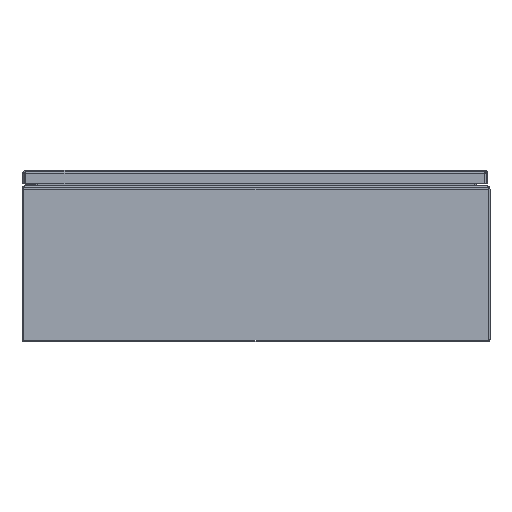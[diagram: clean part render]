
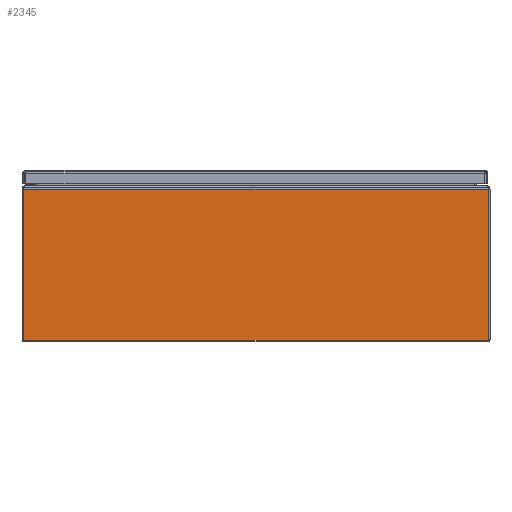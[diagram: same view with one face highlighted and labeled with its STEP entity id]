
A CAD part, front view. The second image highlights one B-rep face of the part: STEP entity #2345.
In plain terms, the highlighted planar face has unit normal (0, -1, 0).
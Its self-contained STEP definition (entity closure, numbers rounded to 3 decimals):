
#2345 = ADVANCED_FACE ( 'NONE', ( #60581 ), #20174, .T. ) ;
#8888 = EDGE_CURVE ( 'NONE', #41651, #41649, #18842, .T. ) ;
#8894 = EDGE_CURVE ( 'NONE', #41651, #41647, #18844, .T. ) ;
#8898 = EDGE_CURVE ( 'NONE', #41647, #41646, #18837, .T. ) ;
#8901 = EDGE_CURVE ( 'NONE', #41649, #41646, #18839, .T. ) ;
#18837 = LINE ( 'NONE', #22295, #18846 ) ;
#18839 = LINE ( 'NONE', #22334, #18848 ) ;
#18841 = VECTOR ( 'NONE', #22316, 39.37 ) ;
#18842 = LINE ( 'NONE', #22302, #18841 ) ;
#18843 = VECTOR ( 'NONE', #22332, 39.37 ) ;
#18844 = LINE ( 'NONE', #22319, #18843 ) ;
#18846 = VECTOR ( 'NONE', #22337, 39.37 ) ;
#18848 = VECTOR ( 'NONE', #22342, 39.37 ) ;
#20170 = CARTESIAN_POINT ( 'NONE',  ( 12., 0., 0.08 ) ) ;
#20174 = PLANE ( 'NONE',  #63437 ) ;
#20181 = DIRECTION ( 'NONE',  ( 0., -1., 0. ) ) ;
#20183 = DIRECTION ( 'NONE',  ( 0., 0., -1. ) ) ;
#22295 = CARTESIAN_POINT ( 'NONE',  ( 12., 0., 0.08 ) ) ;
#22302 = CARTESIAN_POINT ( 'NONE',  ( 12., 0., 7.838 ) ) ;
#22316 = DIRECTION ( 'NONE',  ( -1., 0., 0. ) ) ;
#22319 = CARTESIAN_POINT ( 'NONE',  ( 11.921, 0., 0.08 ) ) ;
#22332 = DIRECTION ( 'NONE',  ( 0., 0., -1. ) ) ;
#22334 = CARTESIAN_POINT ( 'NONE',  ( -11.921, 0., 8.569 ) ) ;
#22337 = DIRECTION ( 'NONE',  ( -1., 0., 0. ) ) ;
#22342 = DIRECTION ( 'NONE',  ( 0., 0., -1. ) ) ;
#24529 = CARTESIAN_POINT ( 'NONE',  ( -11.921, 0., 0.08 ) ) ;
#24531 = CARTESIAN_POINT ( 'NONE',  ( 11.921, 0., 0.08 ) ) ;
#24533 = CARTESIAN_POINT ( 'NONE',  ( -11.921, 0., 7.838 ) ) ;
#24535 = CARTESIAN_POINT ( 'NONE',  ( 11.921, 0., 7.838 ) ) ;
#41646 = VERTEX_POINT ( 'NONE', #24529 ) ;
#41647 = VERTEX_POINT ( 'NONE', #24531 ) ;
#41649 = VERTEX_POINT ( 'NONE', #24533 ) ;
#41651 = VERTEX_POINT ( 'NONE', #24535 ) ;
#45764 = EDGE_LOOP ( 'NONE', ( #51831, #51832, #51833, #51834 ) ) ;
#51831 = ORIENTED_EDGE ( 'NONE', *, *, #8898, .F. ) ;
#51832 = ORIENTED_EDGE ( 'NONE', *, *, #8894, .F. ) ;
#51833 = ORIENTED_EDGE ( 'NONE', *, *, #8888, .T. ) ;
#51834 = ORIENTED_EDGE ( 'NONE', *, *, #8901, .T. ) ;
#60581 = FACE_OUTER_BOUND ( 'NONE', #45764, .T. ) ;
#63437 = AXIS2_PLACEMENT_3D ( 'NONE', #20170, #20181, #20183 ) ;
